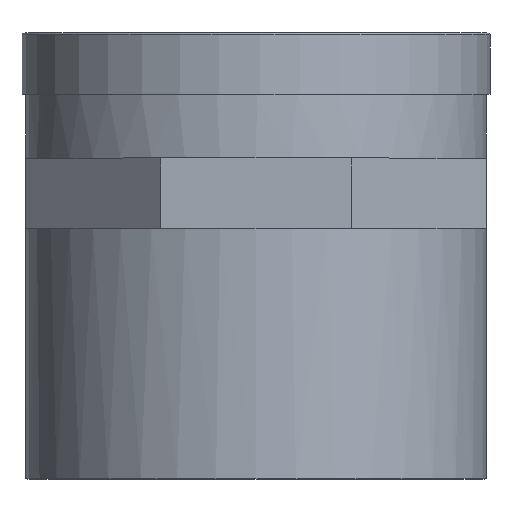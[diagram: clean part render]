
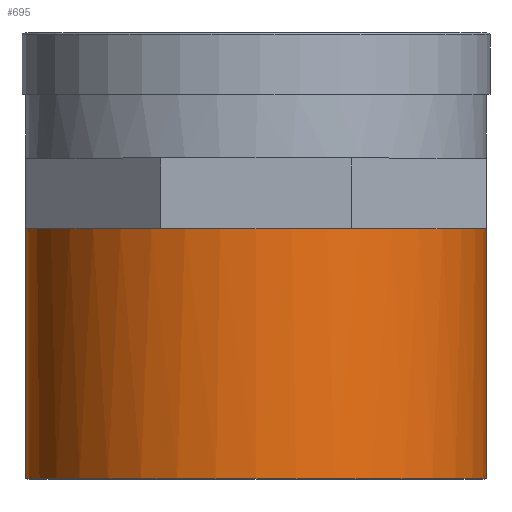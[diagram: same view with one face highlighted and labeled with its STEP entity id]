
A CAD part, top view. The second image highlights one B-rep face of the part: STEP entity #695.
In plain terms, the highlighted cylindrical face has radius 37.5 mm (diameter 75 mm), a full revolution.
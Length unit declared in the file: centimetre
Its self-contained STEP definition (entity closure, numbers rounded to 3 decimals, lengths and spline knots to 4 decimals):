
#159=FACE_BOUND('',#258,.T.);
#202=FACE_OUTER_BOUND('',#257,.T.);
#257=EDGE_LOOP('',(#584,#585,#586,#587,#588,#589,#590,#591));
#258=EDGE_LOOP('',(#592));
#271=CIRCLE('',#719,3.75);
#272=CIRCLE('',#721,3.75);
#273=CIRCLE('',#723,3.75);
#274=CIRCLE('',#725,3.75);
#275=CIRCLE('',#727,3.75);
#276=CIRCLE('',#729,3.75);
#277=CIRCLE('',#731,3.75);
#278=CIRCLE('',#733,3.75);
#292=CIRCLE('',#766,3.75);
#311=VERTEX_POINT('',#5086);
#317=VERTEX_POINT('',#5099);
#321=VERTEX_POINT('',#5109);
#324=VERTEX_POINT('',#5118);
#325=VERTEX_POINT('',#5119);
#327=VERTEX_POINT('',#5125);
#329=VERTEX_POINT('',#5131);
#331=VERTEX_POINT('',#5137);
#346=VERTEX_POINT('',#5211);
#386=EDGE_CURVE('',#324,#325,#271,.T.);
#389=EDGE_CURVE('',#327,#324,#272,.T.);
#392=EDGE_CURVE('',#329,#327,#273,.T.);
#395=EDGE_CURVE('',#331,#329,#274,.T.);
#398=EDGE_CURVE('',#311,#331,#275,.T.);
#400=EDGE_CURVE('',#317,#311,#276,.T.);
#401=EDGE_CURVE('',#321,#317,#277,.T.);
#402=EDGE_CURVE('',#325,#321,#278,.T.);
#431=EDGE_CURVE('',#346,#346,#292,.T.);
#584=ORIENTED_EDGE('',*,*,#386,.T.);
#585=ORIENTED_EDGE('',*,*,#402,.T.);
#586=ORIENTED_EDGE('',*,*,#401,.T.);
#587=ORIENTED_EDGE('',*,*,#400,.T.);
#588=ORIENTED_EDGE('',*,*,#398,.T.);
#589=ORIENTED_EDGE('',*,*,#395,.T.);
#590=ORIENTED_EDGE('',*,*,#392,.T.);
#591=ORIENTED_EDGE('',*,*,#389,.T.);
#592=ORIENTED_EDGE('',*,*,#431,.T.);
#607=CYLINDRICAL_SURFACE('',#767,3.75);
#695=ADVANCED_FACE('',(#202,#159),#607,.T.);
#719=AXIS2_PLACEMENT_3D('',#5120,#829,#830);
#721=AXIS2_PLACEMENT_3D('',#5126,#835,#836);
#723=AXIS2_PLACEMENT_3D('',#5132,#841,#842);
#725=AXIS2_PLACEMENT_3D('',#5138,#847,#848);
#727=AXIS2_PLACEMENT_3D('',#5143,#853,#854);
#729=AXIS2_PLACEMENT_3D('',#5146,#858,#859);
#731=AXIS2_PLACEMENT_3D('',#5148,#862,#863);
#733=AXIS2_PLACEMENT_3D('',#5150,#866,#867);
#766=AXIS2_PLACEMENT_3D('',#5212,#947,#948);
#767=AXIS2_PLACEMENT_3D('',#5213,#949,#950);
#829=DIRECTION('center_axis',(0.,-1.,0.));
#830=DIRECTION('ref_axis',(-1.,0.,0.));
#835=DIRECTION('center_axis',(0.,-1.,0.));
#836=DIRECTION('ref_axis',(-1.,0.,0.));
#841=DIRECTION('center_axis',(0.,-1.,0.));
#842=DIRECTION('ref_axis',(-1.,0.,0.));
#847=DIRECTION('center_axis',(0.,-1.,0.));
#848=DIRECTION('ref_axis',(-1.,0.,0.));
#853=DIRECTION('center_axis',(0.,-1.,0.));
#854=DIRECTION('ref_axis',(-1.,0.,0.));
#858=DIRECTION('center_axis',(0.,-1.,0.));
#859=DIRECTION('ref_axis',(-1.,0.,0.));
#862=DIRECTION('center_axis',(0.,-1.,0.));
#863=DIRECTION('ref_axis',(-1.,0.,0.));
#866=DIRECTION('center_axis',(0.,-1.,0.));
#867=DIRECTION('ref_axis',(-1.,0.,0.));
#947=DIRECTION('center_axis',(0.,1.,0.));
#948=DIRECTION('ref_axis',(1.,0.,0.));
#949=DIRECTION('center_axis',(0.,1.,0.));
#950=DIRECTION('ref_axis',(-1.,0.,0.));
#5086=CARTESIAN_POINT('',(2.6517,-1.3097,2.6517));
#5099=CARTESIAN_POINT('',(3.75,-1.3097,0.));
#5109=CARTESIAN_POINT('',(2.6517,-1.3097,-2.6517));
#5118=CARTESIAN_POINT('',(-2.6517,-1.3097,-2.6517));
#5119=CARTESIAN_POINT('',(0.,-1.3097,-3.75));
#5120=CARTESIAN_POINT('Origin',(0.,-1.3097,0.));
#5125=CARTESIAN_POINT('',(-3.75,-1.3097,0.));
#5126=CARTESIAN_POINT('Origin',(0.,-1.3097,0.));
#5131=CARTESIAN_POINT('',(-2.6517,-1.3097,2.6517));
#5132=CARTESIAN_POINT('Origin',(0.,-1.3097,0.));
#5137=CARTESIAN_POINT('',(0.,-1.3097,3.75));
#5138=CARTESIAN_POINT('Origin',(0.,-1.3097,0.));
#5143=CARTESIAN_POINT('Origin',(0.,-1.3097,0.));
#5146=CARTESIAN_POINT('Origin',(0.,-1.3097,0.));
#5148=CARTESIAN_POINT('Origin',(0.,-1.3097,0.));
#5150=CARTESIAN_POINT('Origin',(0.,-1.3097,0.));
#5211=CARTESIAN_POINT('',(-3.75,-5.3797,0.));
#5212=CARTESIAN_POINT('Origin',(0.,-5.3797,0.));
#5213=CARTESIAN_POINT('Origin',(0.,-1.7797,0.));
